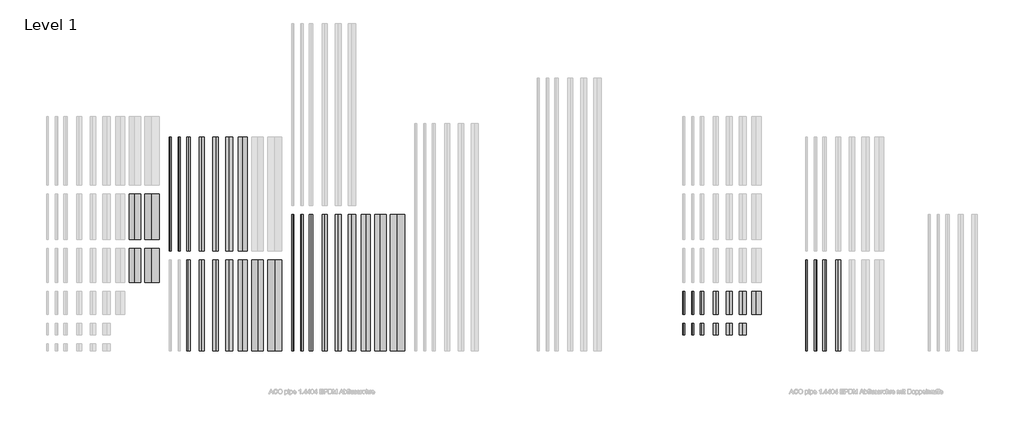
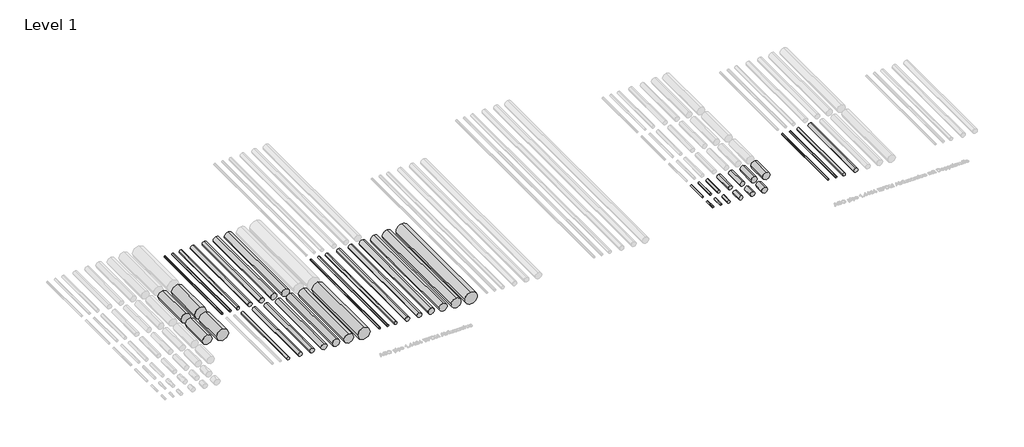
# One storey, part 2 of 13: 44 pipe segments.
"""IFC4 building model written with IfcOpenShell, lengths in millimetres."""

import ifcopenshell
import ifcopenshell.guid

model = None  # the IFC model being written
_history = None  # IfcOwnerHistory: only IFC2X3 demands one
_inside = {}  # id of a spatial element -> (the spatial element, [elements in it])
_under = {}  # id of a project, library or spatial element -> (it, [spatial elements below it])
_declared = {}  # id of a project -> (the project, [libraries it declares])
_typed = {}  # id of a type object -> (the type object, [elements of that type])
_made_of = {}  # id of a material, layer set ... -> (it, [elements and type objects made of it])


def new_model(schema):
    """Start an empty IFC model of exactly this schema.

    Asked for "IFC4X3", IfcOpenShell would pick the latest addendum, in which some entities
    have other attributes; the version numbers below select the first issue.
    IFC2X3 requires an IfcOwnerHistory on every rooted entity: one is made here for all.
    """
    global model, _history
    if schema == "IFC4X3":
        model = ifcopenshell.file(schema_version=(4, 3, 0, 0))
    else:
        model = ifcopenshell.file(schema=schema)
    _inside.clear()
    _under.clear()
    _declared.clear()
    _typed.clear()
    _made_of.clear()
    _history = None
    if model.schema == "IFC2X3":
        org = make("IfcOrganization", Name="unknown")
        user = make(
            "IfcPersonAndOrganization",
            ThePerson=make("IfcPerson", FamilyName="unknown"),
            TheOrganization=org,
        )
        app = make(
            "IfcApplication",
            ApplicationDeveloper=org,
            Version="unknown",
            ApplicationFullName="unknown",
            ApplicationIdentifier="unknown",
        )
        _history = make(
            "IfcOwnerHistory",
            OwningUser=user,
            OwningApplication=app,
            ChangeAction="ADDED",
            CreationDate=0,
        )
    return model


def make(cls, **values):
    """One entity of the class cls with the attributes given. An attribute that is None is left unset."""
    return model.create_entity(
        cls, **{name: value for name, value in values.items() if value is not None}
    )


def rooted(cls, **values):
    """An entity with a GlobalId (a new one), such as an element, a storey or a relation."""
    return make(cls, GlobalId=ifcopenshell.guid.new(), OwnerHistory=_history, **values)


def si_unit(unit_type, name, prefix=None):
    """IfcSIUnit, for example si_unit("LENGTHUNIT", "METRE", prefix="MILLI")."""
    return make("IfcSIUnit", UnitType=unit_type, Prefix=prefix, Name=name)


def assignment(units):
    """IfcUnitAssignment: the units of a project."""
    return None if units is None else make("IfcUnitAssignment", Units=units)


def point(xyz):
    """IfcCartesianPoint."""
    return None if xyz is None else make("IfcCartesianPoint", Coordinates=xyz)


def direction(xyz):
    """IfcDirection."""
    return None if xyz is None else make("IfcDirection", DirectionRatios=xyz)


def frame(location, z_axis=None, x_axis=None):
    """IfcAxis2Placement3D, a coordinate frame: its origin and axes. An axis left out is left unset."""
    return make(
        "IfcAxis2Placement3D",
        Location=point(location),
        Axis=direction(z_axis),
        RefDirection=direction(x_axis),
    )


def frame_2d(location, x_axis=None):
    """IfcAxis2Placement2D, a coordinate frame in the plane: its origin and x axis."""
    return make(
        "IfcAxis2Placement2D", Location=point(location), RefDirection=direction(x_axis)
    )


def origin():
    """The frame at (0, 0, 0) with its axes left unset."""
    return frame((0.0, 0.0, 0.0))


def place(relative_to, where):
    """IfcLocalPlacement: puts the frame where relative to a parent placement (None: the world)."""
    return make(
        "IfcLocalPlacement", PlacementRelTo=relative_to, RelativePlacement=where
    )


def context(
    kind, dimensions, precision=None, world=None, true_north=None, identifier=None
):
    """IfcGeometricRepresentationContext, for example the 3D "Model" context."""
    return make(
        "IfcGeometricRepresentationContext",
        ContextIdentifier=identifier,
        ContextType=kind,
        CoordinateSpaceDimension=dimensions,
        Precision=precision,
        WorldCoordinateSystem=world,
        TrueNorth=true_north,
    )


def project(units=None, contexts=None):
    """IfcProject with its units and contexts."""
    return rooted(
        "IfcProject",
        Name="project",
        RepresentationContexts=contexts,
        UnitsInContext=assignment(units),
    )


def spatial(cls, under=None, at=None, **own):
    """A site, building, storey or space (cls), placed at a placement, below another one or the project."""
    s = rooted(cls, ObjectPlacement=at, **own)
    if under is not None:
        _under.setdefault(under.id(), (under, []))[1].append(s)
    return s


def circle_curve(where, radius):
    """IfcCircle in the frame where."""
    return make("IfcCircle", Position=where, Radius=radius)


def trimmed(basis, trim1, trim2, sense, master):
    """IfcTrimmedCurve: the piece of a basis curve between two trims."""
    return make(
        "IfcTrimmedCurve",
        BasisCurve=basis,
        Trim1=trim1,
        Trim2=trim2,
        SenseAgreement=sense,
        MasterRepresentation=master,
    )


def segment(curve, same_sense, transition):
    """IfcCompositeCurveSegment."""
    return make(
        "IfcCompositeCurveSegment",
        Transition=transition,
        SameSense=same_sense,
        ParentCurve=curve,
    )


def composite_curve(segments, self_intersect=None):
    """IfcCompositeCurve: segments joined end to end."""
    return make("IfcCompositeCurve", Segments=segments, SelfIntersect=self_intersect)


def outline(outer, holes=None, kind="AREA"):
    """IfcArbitraryClosedProfileDef: a profile drawn as a closed curve; with holes, ...WithVoids."""
    if holes is None:
        return make("IfcArbitraryClosedProfileDef", ProfileType=kind, OuterCurve=outer)
    return make(
        "IfcArbitraryProfileDefWithVoids",
        ProfileType=kind,
        OuterCurve=outer,
        InnerCurves=holes,
    )


def extrude(swept, where, along, depth):
    """IfcExtrudedAreaSolid: the profile swept, set in the frame where, extruded along a direction by depth."""
    return make(
        "IfcExtrudedAreaSolid",
        SweptArea=swept,
        Position=where,
        ExtrudedDirection=direction(along),
        Depth=depth,
    )


def shape(context_of_items, identifier, shape_type, items):
    """IfcShapeRepresentation: the items that make up one representation, for example the "Body"."""
    return make(
        "IfcShapeRepresentation",
        ContextOfItems=context_of_items,
        RepresentationIdentifier=identifier,
        RepresentationType=shape_type,
        Items=items,
    )


def made_of(thing, what):
    """Note that an element or type object is made of a material, layer set ...; save() writes the relation."""
    if what is not None:
        _made_of.setdefault(what.id(), (what, []))[1].append(thing)
    return thing


def element(
    cls,
    number,
    at=None,
    inside=None,
    cuts=None,
    type_object=None,
    material=None,
    context=None,
    identifier="Body",
    shape_type=None,
    held_by="IfcProductDefinitionShape",
    body=None,
    shapes=None,
    **own,
):
    """One element of the class cls, such as IfcWall. Its Tag is "e" and its number.

    at: its placement. inside: the storey or other place that contains it. cuts: it is an
    opening in that element (IfcRelVoidsElement). A single representation is given by context,
    identifier, shape_type and body (its items); several are given by shapes. held_by: the class
    of the entity that holds the representations. save() writes the other relations.
    """
    e = rooted(cls, Tag="e%d" % number, ObjectPlacement=at, **own)
    if body is not None:
        shapes = [shape(context, identifier, shape_type, body)]
    if shapes is not None:
        e.Representation = make(held_by, Representations=shapes)
    if inside is not None:
        _inside.setdefault(inside.id(), (inside, []))[1].append(e)
    if cuts is not None:
        rooted(
            "IfcRelVoidsElement", RelatingBuildingElement=cuts, RelatedOpeningElement=e
        )
    if type_object is not None:
        _typed.setdefault(type_object.id(), (type_object, []))[1].append(e)
    return made_of(e, material)


def aggregate(whole, parts):
    """IfcRelAggregates: a whole, such as a stair, and the parts it consists of."""
    return rooted("IfcRelAggregates", RelatingObject=whole, RelatedObjects=parts)


def save(model, path):
    """Write the relations noted so far, then the file.

    IfcRelAggregates (storeys below a building ...), IfcRelContainedInSpatialStructure (elements
    in a storey), IfcRelDefinesByType, IfcRelAssociatesMaterial and IfcRelDeclares: one each for
    every whole, place, type object, material and project.
    """
    for whole, parts in _under.values():
        aggregate(whole, parts)
    for where, things in _inside.values():
        rooted(
            "IfcRelContainedInSpatialStructure",
            RelatedElements=things,
            RelatingStructure=where,
        )
    for kind, things in _typed.values():
        rooted("IfcRelDefinesByType", RelatedObjects=things, RelatingType=kind)
    for what, things in _made_of.values():
        rooted("IfcRelAssociatesMaterial", RelatedObjects=things, RelatingMaterial=what)
    for by, libraries in _declared.values():
        rooted("IfcRelDeclares", RelatingContext=by, RelatedDefinitions=libraries)
    model.write(path)


model = new_model("IFC4")

# Units and contexts
model_context = context("Model", 3, world=origin())
ifc_project = project(units=[si_unit("LENGTHUNIT", "METRE", prefix="MILLI")], contexts=[model_context])

# Site, building, storey
site = spatial("IfcSite", under=ifc_project)
building = spatial("IfcBuilding", under=site)
storey = spatial("IfcBuildingStorey", under=building, Name="Level 1", Elevation=0.0)

# Pipe segments
placement = place(None, origin())
element("IfcPipeSegment", 1, ObjectType="ACO pipe 1.4404 OD (complex)", at=placement, inside=storey, context=model_context, shape_type="SweptSolid", body=[
    extrude(outline(composite_curve([segment(trimmed(circle_curve(frame_2d((0.0, 1421.7461061)), 37.5), [point((0.0, 1459.2461061))], [point((37.5, 1421.7461061))], False, "CARTESIAN"), True, "CONTINUOUS"), segment(trimmed(circle_curve(frame_2d((0.0, 1421.7461061)), 37.5), [point((37.5, 1421.7461061))], [point((0.0, 1384.2461061))], False, "CARTESIAN"), True, "CONTINUOUS"), segment(trimmed(circle_curve(frame_2d((0.0, 1421.7461061)), 37.5), [point((0.0, 1384.2461061))], [point((-37.5, 1421.7461061))], False, "CARTESIAN"), True, "CONTINUOUS"), segment(trimmed(circle_curve(frame_2d((0.0, 1421.7461061)), 37.5), [point((-37.5, 1421.7461061))], [point((0.0, 1459.2461061))], False, "CARTESIAN"), True, "CONTINUOUS")], self_intersect=False)), frame((0.0, -9769.2114353, 0.0), z_axis=(0.0, 1.0, 0.0), x_axis=(0.0, 0.0, 1.0)), (0.0, 0.0, 1.0), 2000.0),
])
element("IfcPipeSegment", 2, ObjectType="ACO pipe 1.4404 OD (complex)", at=placement, inside=storey, context=model_context, shape_type="SweptSolid", body=[
    extrude(outline(composite_curve([segment(trimmed(circle_curve(frame_2d((0.0, 1721.7461061)), 55.0), [point((0.0, 1776.7461061))], [point((55.0, 1721.7461061))], False, "CARTESIAN"), True, "CONTINUOUS"), segment(trimmed(circle_curve(frame_2d((0.0, 1721.7461061)), 55.0), [point((55.0, 1721.7461061))], [point((0.0, 1666.7461061))], False, "CARTESIAN"), True, "CONTINUOUS"), segment(trimmed(circle_curve(frame_2d((0.0, 1721.7461061)), 55.0), [point((0.0, 1666.7461061))], [point((-55.0, 1721.7461061))], False, "CARTESIAN"), True, "CONTINUOUS"), segment(trimmed(circle_curve(frame_2d((0.0, 1721.7461061)), 55.0), [point((-55.0, 1721.7461061))], [point((0.0, 1776.7461061))], False, "CARTESIAN"), True, "CONTINUOUS")], self_intersect=False)), frame((0.0, -9769.2114353, 0.0), z_axis=(0.0, 1.0, 0.0), x_axis=(0.0, 0.0, 1.0)), (0.0, 0.0, 1.0), 2000.0),
])
element("IfcPipeSegment", 3, ObjectType="ACO pipe 1.4404 OD (complex)", at=placement, inside=storey, context=model_context, shape_type="SweptSolid", body=[
    extrude(outline(composite_curve([segment(trimmed(circle_curve(frame_2d((0.0, 2021.7461061)), 62.5), [point((0.0, 2084.2461061))], [point((62.5, 2021.7461061))], False, "CARTESIAN"), True, "CONTINUOUS"), segment(trimmed(circle_curve(frame_2d((0.0, 2021.7461061)), 62.5), [point((62.5, 2021.7461061))], [point((0.0, 1959.2461061))], False, "CARTESIAN"), True, "CONTINUOUS"), segment(trimmed(circle_curve(frame_2d((0.0, 2021.7461061)), 62.5), [point((0.0, 1959.2461061))], [point((-62.5, 2021.7461061))], False, "CARTESIAN"), True, "CONTINUOUS"), segment(trimmed(circle_curve(frame_2d((0.0, 2021.7461061)), 62.5), [point((-62.5, 2021.7461061))], [point((0.0, 2084.2461061))], False, "CARTESIAN"), True, "CONTINUOUS")], self_intersect=False)), frame((0.0, -9769.2114353, 0.0), z_axis=(0.0, 1.0, 0.0), x_axis=(0.0, 0.0, 1.0)), (0.0, 0.0, 1.0), 2000.0),
])
element("IfcPipeSegment", 4, ObjectType="ACO pipe 1.4404 OD (complex)", at=placement, inside=storey, context=model_context, shape_type="SweptSolid", body=[
    extrude(outline(composite_curve([segment(trimmed(circle_curve(frame_2d((0.0, 2321.7461061)), 80.0), [point((0.0, 2401.7461061))], [point((80.0, 2321.7461061))], False, "CARTESIAN"), True, "CONTINUOUS"), segment(trimmed(circle_curve(frame_2d((0.0, 2321.7461061)), 80.0), [point((80.0, 2321.7461061))], [point((0.0, 2241.7461061))], False, "CARTESIAN"), True, "CONTINUOUS"), segment(trimmed(circle_curve(frame_2d((0.0, 2321.7461061)), 80.0), [point((0.0, 2241.7461061))], [point((-80.0, 2321.7461061))], False, "CARTESIAN"), True, "CONTINUOUS"), segment(trimmed(circle_curve(frame_2d((0.0, 2321.7461061)), 80.0), [point((-80.0, 2321.7461061))], [point((0.0, 2401.7461061))], False, "CARTESIAN"), True, "CONTINUOUS")], self_intersect=False)), frame((0.0, -9769.2114353, 0.0), z_axis=(0.0, 1.0, 0.0), x_axis=(0.0, 0.0, 1.0)), (0.0, 0.0, 1.0), 2000.0),
])
element("IfcPipeSegment", 5, ObjectType="ACO pipe 1.4404 OD (complex)", at=placement, inside=storey, context=model_context, shape_type="SweptSolid", body=[
    extrude(outline(composite_curve([segment(trimmed(circle_curve(frame_2d((0.0, 2621.7461061)), 100.0), [point((0.0, 2721.7461061))], [point((100.0, 2621.7461061))], False, "CARTESIAN"), True, "CONTINUOUS"), segment(trimmed(circle_curve(frame_2d((0.0, 2621.7461061)), 100.0), [point((100.0, 2621.7461061))], [point((0.0, 2521.7461061))], False, "CARTESIAN"), True, "CONTINUOUS"), segment(trimmed(circle_curve(frame_2d((0.0, 2621.7461061)), 100.0), [point((0.0, 2521.7461061))], [point((-100.0, 2621.7461061))], False, "CARTESIAN"), True, "CONTINUOUS"), segment(trimmed(circle_curve(frame_2d((0.0, 2621.7461061)), 100.0), [point((-100.0, 2621.7461061))], [point((0.0, 2721.7461061))], False, "CARTESIAN"), True, "CONTINUOUS")], self_intersect=False)), frame((0.0, -9769.2114353, 0.0), z_axis=(0.0, 1.0, 0.0), x_axis=(0.0, 0.0, 1.0)), (0.0, 0.0, 1.0), 2000.0),
])
element("IfcPipeSegment", 6, ObjectType="ACO pipe 1.4404 OD (complex)", at=placement, inside=storey, context=model_context, shape_type="SweptSolid", body=[
    extrude(outline(composite_curve([segment(trimmed(circle_curve(frame_2d((0.0, 1021.7461061)), 20.0), [point((0.0, 1041.7461061))], [point((20.0, 1021.7461061))], False, "CARTESIAN"), True, "CONTINUOUS"), segment(trimmed(circle_curve(frame_2d((0.0, 1021.7461061)), 20.0), [point((20.0, 1021.7461061))], [point((0.0, 1001.7461061))], False, "CARTESIAN"), True, "CONTINUOUS"), segment(trimmed(circle_curve(frame_2d((0.0, 1021.7461061)), 20.0), [point((0.0, 1001.7461061))], [point((-20.0, 1021.7461061))], False, "CARTESIAN"), True, "CONTINUOUS"), segment(trimmed(circle_curve(frame_2d((0.0, 1021.7461061)), 20.0), [point((-20.0, 1021.7461061))], [point((0.0, 1041.7461061))], False, "CARTESIAN"), True, "CONTINUOUS")], self_intersect=False)), frame((0.0, -7569.2114353, 0.0), z_axis=(0.0, 1.0, 0.0), x_axis=(0.0, 0.0, 1.0)), (0.0, 0.0, 1.0), 2500.0),
])
element("IfcPipeSegment", 7, ObjectType="ACO pipe 1.4404 OD (complex)", at=placement, inside=storey, context=model_context, shape_type="SweptSolid", body=[
    extrude(outline(composite_curve([segment(trimmed(circle_curve(frame_2d((0.0, 1221.7461061)), 25.0), [point((0.0, 1246.7461061))], [point((25.0, 1221.7461061))], False, "CARTESIAN"), True, "CONTINUOUS"), segment(trimmed(circle_curve(frame_2d((0.0, 1221.7461061)), 25.0), [point((25.0, 1221.7461061))], [point((0.0, 1196.7461061))], False, "CARTESIAN"), True, "CONTINUOUS"), segment(trimmed(circle_curve(frame_2d((0.0, 1221.7461061)), 25.0), [point((0.0, 1196.7461061))], [point((-25.0, 1221.7461061))], False, "CARTESIAN"), True, "CONTINUOUS"), segment(trimmed(circle_curve(frame_2d((0.0, 1221.7461061)), 25.0), [point((-25.0, 1221.7461061))], [point((0.0, 1246.7461061))], False, "CARTESIAN"), True, "CONTINUOUS")], self_intersect=False)), frame((0.0, -7569.2114353, 0.0), z_axis=(0.0, 1.0, 0.0), x_axis=(0.0, 0.0, 1.0)), (0.0, 0.0, 1.0), 2500.0),
])
element("IfcPipeSegment", 8, ObjectType="ACO pipe 1.4404 OD (complex)", at=placement, inside=storey, context=model_context, shape_type="SweptSolid", body=[
    extrude(outline(composite_curve([segment(trimmed(circle_curve(frame_2d((0.0, 1421.7461061)), 37.5), [point((0.0, 1459.2461061))], [point((37.5, 1421.7461061))], False, "CARTESIAN"), True, "CONTINUOUS"), segment(trimmed(circle_curve(frame_2d((0.0, 1421.7461061)), 37.5), [point((37.5, 1421.7461061))], [point((0.0, 1384.2461061))], False, "CARTESIAN"), True, "CONTINUOUS"), segment(trimmed(circle_curve(frame_2d((0.0, 1421.7461061)), 37.5), [point((0.0, 1384.2461061))], [point((-37.5, 1421.7461061))], False, "CARTESIAN"), True, "CONTINUOUS"), segment(trimmed(circle_curve(frame_2d((0.0, 1421.7461061)), 37.5), [point((-37.5, 1421.7461061))], [point((0.0, 1459.2461061))], False, "CARTESIAN"), True, "CONTINUOUS")], self_intersect=False)), frame((0.0, -7569.2114353, 0.0), z_axis=(0.0, 1.0, 0.0), x_axis=(0.0, 0.0, 1.0)), (0.0, 0.0, 1.0), 2500.0),
])
element("IfcPipeSegment", 9, ObjectType="ACO pipe 1.4404 OD (complex)", at=placement, inside=storey, context=model_context, shape_type="SweptSolid", body=[
    extrude(outline(composite_curve([segment(trimmed(circle_curve(frame_2d((0.0, 1721.7461061)), 55.0), [point((0.0, 1776.7461061))], [point((55.0, 1721.7461061))], False, "CARTESIAN"), True, "CONTINUOUS"), segment(trimmed(circle_curve(frame_2d((0.0, 1721.7461061)), 55.0), [point((55.0, 1721.7461061))], [point((0.0, 1666.7461061))], False, "CARTESIAN"), True, "CONTINUOUS"), segment(trimmed(circle_curve(frame_2d((0.0, 1721.7461061)), 55.0), [point((0.0, 1666.7461061))], [point((-55.0, 1721.7461061))], False, "CARTESIAN"), True, "CONTINUOUS"), segment(trimmed(circle_curve(frame_2d((0.0, 1721.7461061)), 55.0), [point((-55.0, 1721.7461061))], [point((0.0, 1776.7461061))], False, "CARTESIAN"), True, "CONTINUOUS")], self_intersect=False)), frame((0.0, -7569.2114353, 0.0), z_axis=(0.0, 1.0, 0.0), x_axis=(0.0, 0.0, 1.0)), (0.0, 0.0, 1.0), 2500.0),
])
element("IfcPipeSegment", 10, ObjectType="ACO pipe 1.4404 OD (complex)", at=placement, inside=storey, context=model_context, shape_type="SweptSolid", body=[
    extrude(outline(composite_curve([segment(trimmed(circle_curve(frame_2d((0.0, 2021.7461061)), 62.5), [point((0.0, 2084.2461061))], [point((62.5, 2021.7461061))], False, "CARTESIAN"), True, "CONTINUOUS"), segment(trimmed(circle_curve(frame_2d((0.0, 2021.7461061)), 62.5), [point((62.5, 2021.7461061))], [point((0.0, 1959.2461061))], False, "CARTESIAN"), True, "CONTINUOUS"), segment(trimmed(circle_curve(frame_2d((0.0, 2021.7461061)), 62.5), [point((0.0, 1959.2461061))], [point((-62.5, 2021.7461061))], False, "CARTESIAN"), True, "CONTINUOUS"), segment(trimmed(circle_curve(frame_2d((0.0, 2021.7461061)), 62.5), [point((-62.5, 2021.7461061))], [point((0.0, 2084.2461061))], False, "CARTESIAN"), True, "CONTINUOUS")], self_intersect=False)), frame((0.0, -7569.2114353, 0.0), z_axis=(0.0, 1.0, 0.0), x_axis=(0.0, 0.0, 1.0)), (0.0, 0.0, 1.0), 2500.0),
])
element("IfcPipeSegment", 11, ObjectType="ACO pipe 1.4404 OD (complex)", at=placement, inside=storey, context=model_context, shape_type="SweptSolid", body=[
    extrude(outline(composite_curve([segment(trimmed(circle_curve(frame_2d((0.0, 2321.7461061)), 80.0), [point((0.0, 2401.7461061))], [point((80.0, 2321.7461061))], False, "CARTESIAN"), True, "CONTINUOUS"), segment(trimmed(circle_curve(frame_2d((0.0, 2321.7461061)), 80.0), [point((80.0, 2321.7461061))], [point((0.0, 2241.7461061))], False, "CARTESIAN"), True, "CONTINUOUS"), segment(trimmed(circle_curve(frame_2d((0.0, 2321.7461061)), 80.0), [point((0.0, 2241.7461061))], [point((-80.0, 2321.7461061))], False, "CARTESIAN"), True, "CONTINUOUS"), segment(trimmed(circle_curve(frame_2d((0.0, 2321.7461061)), 80.0), [point((-80.0, 2321.7461061))], [point((0.0, 2401.7461061))], False, "CARTESIAN"), True, "CONTINUOUS")], self_intersect=False)), frame((0.0, -7569.2114353, 0.0), z_axis=(0.0, 1.0, 0.0), x_axis=(0.0, 0.0, 1.0)), (0.0, 0.0, 1.0), 2500.0),
])
element("IfcPipeSegment", 12, ObjectType="ACO pipe 1.4404 OD (complex)", at=placement, inside=storey, context=model_context, shape_type="SweptSolid", body=[
    extrude(outline(composite_curve([segment(trimmed(circle_curve(frame_2d((0.0, 2621.7461061)), 100.0), [point((0.0, 2721.7461061))], [point((100.0, 2621.7461061))], False, "CARTESIAN"), True, "CONTINUOUS"), segment(trimmed(circle_curve(frame_2d((0.0, 2621.7461061)), 100.0), [point((100.0, 2621.7461061))], [point((0.0, 2521.7461061))], False, "CARTESIAN"), True, "CONTINUOUS"), segment(trimmed(circle_curve(frame_2d((0.0, 2621.7461061)), 100.0), [point((0.0, 2521.7461061))], [point((-100.0, 2621.7461061))], False, "CARTESIAN"), True, "CONTINUOUS"), segment(trimmed(circle_curve(frame_2d((0.0, 2621.7461061)), 100.0), [point((-100.0, 2621.7461061))], [point((0.0, 2721.7461061))], False, "CARTESIAN"), True, "CONTINUOUS")], self_intersect=False)), frame((0.0, -7569.2114353, 0.0), z_axis=(0.0, 1.0, 0.0), x_axis=(0.0, 0.0, 1.0)), (0.0, 0.0, 1.0), 2500.0),
])
element("IfcPipeSegment", 13, ObjectType="ACO pipe 1.4404 OD (complex)", at=placement, inside=storey, context=model_context, shape_type="SweptSolid", body=[
    extrude(outline(composite_curve([segment(trimmed(circle_curve(frame_2d((0.0, 3721.7461061)), 20.0), [point((0.0, 3741.7461061))], [point((20.0, 3721.7461061))], False, "CARTESIAN"), True, "CONTINUOUS"), segment(trimmed(circle_curve(frame_2d((0.0, 3721.7461061)), 20.0), [point((20.0, 3721.7461061))], [point((0.0, 3701.7461061))], False, "CARTESIAN"), True, "CONTINUOUS"), segment(trimmed(circle_curve(frame_2d((0.0, 3721.7461061)), 20.0), [point((0.0, 3701.7461061))], [point((-20.0, 3721.7461061))], False, "CARTESIAN"), True, "CONTINUOUS"), segment(trimmed(circle_curve(frame_2d((0.0, 3721.7461061)), 20.0), [point((-20.0, 3721.7461061))], [point((0.0, 3741.7461061))], False, "CARTESIAN"), True, "CONTINUOUS")], self_intersect=False)), frame((0.0, -9769.2114353, 0.0), z_axis=(0.0, 1.0, 0.0), x_axis=(0.0, 0.0, 1.0)), (0.0, 0.0, 1.0), 3000.0),
])
element("IfcPipeSegment", 14, ObjectType="ACO pipe 1.4404 OD (complex)", at=placement, inside=storey, context=model_context, shape_type="SweptSolid", body=[
    extrude(outline(composite_curve([segment(trimmed(circle_curve(frame_2d((0.0, 3921.7461061)), 25.0), [point((0.0, 3946.7461061))], [point((25.0, 3921.7461061))], False, "CARTESIAN"), True, "CONTINUOUS"), segment(trimmed(circle_curve(frame_2d((0.0, 3921.7461061)), 25.0), [point((25.0, 3921.7461061))], [point((0.0, 3896.7461061))], False, "CARTESIAN"), True, "CONTINUOUS"), segment(trimmed(circle_curve(frame_2d((0.0, 3921.7461061)), 25.0), [point((0.0, 3896.7461061))], [point((-25.0, 3921.7461061))], False, "CARTESIAN"), True, "CONTINUOUS"), segment(trimmed(circle_curve(frame_2d((0.0, 3921.7461061)), 25.0), [point((-25.0, 3921.7461061))], [point((0.0, 3946.7461061))], False, "CARTESIAN"), True, "CONTINUOUS")], self_intersect=False)), frame((0.0, -9769.2114353, 0.0), z_axis=(0.0, 1.0, 0.0), x_axis=(0.0, 0.0, 1.0)), (0.0, 0.0, 1.0), 3000.0),
])
element("IfcPipeSegment", 15, ObjectType="ACO pipe 1.4404 OD (complex)", at=placement, inside=storey, context=model_context, shape_type="SweptSolid", body=[
    extrude(outline(composite_curve([segment(trimmed(circle_curve(frame_2d((0.0, 4121.7461061)), 37.5), [point((0.0, 4159.2461061))], [point((37.5, 4121.7461061))], False, "CARTESIAN"), True, "CONTINUOUS"), segment(trimmed(circle_curve(frame_2d((0.0, 4121.7461061)), 37.5), [point((37.5, 4121.7461061))], [point((0.0, 4084.2461061))], False, "CARTESIAN"), True, "CONTINUOUS"), segment(trimmed(circle_curve(frame_2d((0.0, 4121.7461061)), 37.5), [point((0.0, 4084.2461061))], [point((-37.5, 4121.7461061))], False, "CARTESIAN"), True, "CONTINUOUS"), segment(trimmed(circle_curve(frame_2d((0.0, 4121.7461061)), 37.5), [point((-37.5, 4121.7461061))], [point((0.0, 4159.2461061))], False, "CARTESIAN"), True, "CONTINUOUS")], self_intersect=False)), frame((0.0, -9769.2114353, 0.0), z_axis=(0.0, 1.0, 0.0), x_axis=(0.0, 0.0, 1.0)), (0.0, 0.0, 1.0), 3000.0),
])
element("IfcPipeSegment", 16, ObjectType="ACO pipe 1.4404 OD (complex)", at=placement, inside=storey, context=model_context, shape_type="SweptSolid", body=[
    extrude(outline(composite_curve([segment(trimmed(circle_curve(frame_2d((0.0, 4421.7461061)), 55.0), [point((0.0, 4476.7461061))], [point((55.0, 4421.7461061))], False, "CARTESIAN"), True, "CONTINUOUS"), segment(trimmed(circle_curve(frame_2d((0.0, 4421.7461061)), 55.0), [point((55.0, 4421.7461061))], [point((0.0, 4366.7461061))], False, "CARTESIAN"), True, "CONTINUOUS"), segment(trimmed(circle_curve(frame_2d((0.0, 4421.7461061)), 55.0), [point((0.0, 4366.7461061))], [point((-55.0, 4421.7461061))], False, "CARTESIAN"), True, "CONTINUOUS"), segment(trimmed(circle_curve(frame_2d((0.0, 4421.7461061)), 55.0), [point((-55.0, 4421.7461061))], [point((0.0, 4476.7461061))], False, "CARTESIAN"), True, "CONTINUOUS")], self_intersect=False)), frame((0.0, -9769.2114353, 0.0), z_axis=(0.0, 1.0, 0.0), x_axis=(0.0, 0.0, 1.0)), (0.0, 0.0, 1.0), 3000.0),
])
element("IfcPipeSegment", 17, ObjectType="ACO pipe 1.4404 OD (complex)", at=placement, inside=storey, context=model_context, shape_type="SweptSolid", body=[
    extrude(outline(composite_curve([segment(trimmed(circle_curve(frame_2d((0.0, 4721.7461061)), 62.5), [point((0.0, 4784.2461061))], [point((62.5, 4721.7461061))], False, "CARTESIAN"), True, "CONTINUOUS"), segment(trimmed(circle_curve(frame_2d((0.0, 4721.7461061)), 62.5), [point((62.5, 4721.7461061))], [point((0.0, 4659.2461061))], False, "CARTESIAN"), True, "CONTINUOUS"), segment(trimmed(circle_curve(frame_2d((0.0, 4721.7461061)), 62.5), [point((0.0, 4659.2461061))], [point((-62.5, 4721.7461061))], False, "CARTESIAN"), True, "CONTINUOUS"), segment(trimmed(circle_curve(frame_2d((0.0, 4721.7461061)), 62.5), [point((-62.5, 4721.7461061))], [point((0.0, 4784.2461061))], False, "CARTESIAN"), True, "CONTINUOUS")], self_intersect=False)), frame((0.0, -9769.2114353, 0.0), z_axis=(0.0, 1.0, 0.0), x_axis=(0.0, 0.0, 1.0)), (0.0, 0.0, 1.0), 3000.0),
])
element("IfcPipeSegment", 18, ObjectType="ACO pipe 1.4404 OD (complex)", at=placement, inside=storey, context=model_context, shape_type="SweptSolid", body=[
    extrude(outline(composite_curve([segment(trimmed(circle_curve(frame_2d((0.0, 5021.7461061)), 80.0), [point((0.0, 5101.7461061))], [point((80.0, 5021.7461061))], False, "CARTESIAN"), True, "CONTINUOUS"), segment(trimmed(circle_curve(frame_2d((0.0, 5021.7461061)), 80.0), [point((80.0, 5021.7461061))], [point((0.0, 4941.7461061))], False, "CARTESIAN"), True, "CONTINUOUS"), segment(trimmed(circle_curve(frame_2d((0.0, 5021.7461061)), 80.0), [point((0.0, 4941.7461061))], [point((-80.0, 5021.7461061))], False, "CARTESIAN"), True, "CONTINUOUS"), segment(trimmed(circle_curve(frame_2d((0.0, 5021.7461061)), 80.0), [point((-80.0, 5021.7461061))], [point((0.0, 5101.7461061))], False, "CARTESIAN"), True, "CONTINUOUS")], self_intersect=False)), frame((0.0, -9769.2114353, 0.0), z_axis=(0.0, 1.0, 0.0), x_axis=(0.0, 0.0, 1.0)), (0.0, 0.0, 1.0), 3000.0),
])
element("IfcPipeSegment", 19, ObjectType="ACO pipe 1.4404 OD (complex)", at=placement, inside=storey, context=model_context, shape_type="SweptSolid", body=[
    extrude(outline(composite_curve([segment(trimmed(circle_curve(frame_2d((0.0, 5321.7461061)), 100.0), [point((0.0, 5421.7461061))], [point((100.0, 5321.7461061))], False, "CARTESIAN"), True, "CONTINUOUS"), segment(trimmed(circle_curve(frame_2d((0.0, 5321.7461061)), 100.0), [point((100.0, 5321.7461061))], [point((0.0, 5221.7461061))], False, "CARTESIAN"), True, "CONTINUOUS"), segment(trimmed(circle_curve(frame_2d((0.0, 5321.7461061)), 100.0), [point((0.0, 5221.7461061))], [point((-100.0, 5321.7461061))], False, "CARTESIAN"), True, "CONTINUOUS"), segment(trimmed(circle_curve(frame_2d((0.0, 5321.7461061)), 100.0), [point((-100.0, 5321.7461061))], [point((0.0, 5421.7461061))], False, "CARTESIAN"), True, "CONTINUOUS")], self_intersect=False)), frame((0.0, -9769.2114353, 0.0), z_axis=(0.0, 1.0, 0.0), x_axis=(0.0, 0.0, 1.0)), (0.0, 0.0, 1.0), 3000.0),
])
element("IfcPipeSegment", 20, ObjectType="ACO pipe 1.4404 OD (complex)", at=placement, inside=storey, context=model_context, shape_type="SweptSolid", body=[
    extrude(outline(composite_curve([segment(trimmed(circle_curve(frame_2d((0.0, 246.7461061)), 125.0), [point((0.0, 371.7461061))], [point((125.0, 246.7461061))], False, "CARTESIAN"), True, "CONTINUOUS"), segment(trimmed(circle_curve(frame_2d((0.0, 246.7461061)), 125.0), [point((125.0, 246.7461061))], [point((0.0, 121.7461061))], False, "CARTESIAN"), True, "CONTINUOUS"), segment(trimmed(circle_curve(frame_2d((0.0, 246.7461061)), 125.0), [point((0.0, 121.7461061))], [point((-125.0, 246.7461061))], False, "CARTESIAN"), True, "CONTINUOUS"), segment(trimmed(circle_curve(frame_2d((0.0, 246.7461061)), 125.0), [point((-125.0, 246.7461061))], [point((0.0, 371.7461061))], False, "CARTESIAN"), True, "CONTINUOUS")], self_intersect=False)), frame((0.0, -7319.2114353, 0.0), z_axis=(0.0, 1.0, 0.0), x_axis=(0.0, 0.0, 1.0)), (0.0, 0.0, 1.0), 1000.0),
])
element("IfcPipeSegment", 21, ObjectType="ACO pipe 1.4404 OD (complex)", at=placement, inside=storey, context=model_context, shape_type="SweptSolid", body=[
    extrude(outline(composite_curve([segment(trimmed(circle_curve(frame_2d((0.0, 621.7461061)), 157.5), [point((0.0, 779.2461061))], [point((157.5, 621.7461061))], False, "CARTESIAN"), True, "CONTINUOUS"), segment(trimmed(circle_curve(frame_2d((0.0, 621.7461061)), 157.5), [point((157.5, 621.7461061))], [point((0.0, 464.2461061))], False, "CARTESIAN"), True, "CONTINUOUS"), segment(trimmed(circle_curve(frame_2d((0.0, 621.7461061)), 157.5), [point((0.0, 464.2461061))], [point((-157.5, 621.7461061))], False, "CARTESIAN"), True, "CONTINUOUS"), segment(trimmed(circle_curve(frame_2d((0.0, 621.7461061)), 157.5), [point((-157.5, 621.7461061))], [point((0.0, 779.2461061))], False, "CARTESIAN"), True, "CONTINUOUS")], self_intersect=False)), frame((0.0, -7319.2114353, 0.0), z_axis=(0.0, 1.0, 0.0), x_axis=(0.0, 0.0, 1.0)), (0.0, 0.0, 1.0), 1000.0),
])
element("IfcPipeSegment", 22, ObjectType="ACO pipe 1.4404 OD (complex)", at=placement, inside=storey, context=model_context, shape_type="SweptSolid", body=[
    extrude(outline(composite_curve([segment(trimmed(circle_curve(frame_2d((0.0, 2946.7461061)), 125.0), [point((0.0, 3071.7461061))], [point((125.0, 2946.7461061))], False, "CARTESIAN"), True, "CONTINUOUS"), segment(trimmed(circle_curve(frame_2d((0.0, 2946.7461061)), 125.0), [point((125.0, 2946.7461061))], [point((0.0, 2821.7461061))], False, "CARTESIAN"), True, "CONTINUOUS"), segment(trimmed(circle_curve(frame_2d((0.0, 2946.7461061)), 125.0), [point((0.0, 2821.7461061))], [point((-125.0, 2946.7461061))], False, "CARTESIAN"), True, "CONTINUOUS"), segment(trimmed(circle_curve(frame_2d((0.0, 2946.7461061)), 125.0), [point((-125.0, 2946.7461061))], [point((0.0, 3071.7461061))], False, "CARTESIAN"), True, "CONTINUOUS")], self_intersect=False)), frame((0.0, -9769.2114353, 0.0), z_axis=(0.0, 1.0, 0.0), x_axis=(0.0, 0.0, 1.0)), (0.0, 0.0, 1.0), 2000.0),
])
element("IfcPipeSegment", 23, ObjectType="ACO pipe 1.4404 OD (complex)", at=placement, inside=storey, context=model_context, shape_type="SweptSolid", body=[
    extrude(outline(composite_curve([segment(trimmed(circle_curve(frame_2d((0.0, 3321.7461061)), 157.5), [point((0.0, 3479.2461061))], [point((157.5, 3321.7461061))], False, "CARTESIAN"), True, "CONTINUOUS"), segment(trimmed(circle_curve(frame_2d((0.0, 3321.7461061)), 157.5), [point((157.5, 3321.7461061))], [point((0.0, 3164.2461061))], False, "CARTESIAN"), True, "CONTINUOUS"), segment(trimmed(circle_curve(frame_2d((0.0, 3321.7461061)), 157.5), [point((0.0, 3164.2461061))], [point((-157.5, 3321.7461061))], False, "CARTESIAN"), True, "CONTINUOUS"), segment(trimmed(circle_curve(frame_2d((0.0, 3321.7461061)), 157.5), [point((-157.5, 3321.7461061))], [point((0.0, 3479.2461061))], False, "CARTESIAN"), True, "CONTINUOUS")], self_intersect=False)), frame((0.0, -9769.2114353, 0.0), z_axis=(0.0, 1.0, 0.0), x_axis=(0.0, 0.0, 1.0)), (0.0, 0.0, 1.0), 2000.0),
])
element("IfcPipeSegment", 24, ObjectType="ACO pipe 1.4404 OD (complex)", at=placement, inside=storey, context=model_context, shape_type="SweptSolid", body=[
    extrude(outline(composite_curve([segment(trimmed(circle_curve(frame_2d((0.0, 5646.7461061)), 125.0), [point((0.0, 5771.7461061))], [point((125.0, 5646.7461061))], False, "CARTESIAN"), True, "CONTINUOUS"), segment(trimmed(circle_curve(frame_2d((0.0, 5646.7461061)), 125.0), [point((125.0, 5646.7461061))], [point((0.0, 5521.7461061))], False, "CARTESIAN"), True, "CONTINUOUS"), segment(trimmed(circle_curve(frame_2d((0.0, 5646.7461061)), 125.0), [point((0.0, 5521.7461061))], [point((-125.0, 5646.7461061))], False, "CARTESIAN"), True, "CONTINUOUS"), segment(trimmed(circle_curve(frame_2d((0.0, 5646.7461061)), 125.0), [point((-125.0, 5646.7461061))], [point((0.0, 5771.7461061))], False, "CARTESIAN"), True, "CONTINUOUS")], self_intersect=False)), frame((0.0, -9769.2114353, 0.0), z_axis=(0.0, 1.0, 0.0), x_axis=(0.0, 0.0, 1.0)), (0.0, 0.0, 1.0), 3000.0),
])
element("IfcPipeSegment", 25, ObjectType="ACO pipe 1.4404 OD (complex)", at=placement, inside=storey, context=model_context, shape_type="SweptSolid", body=[
    extrude(outline(composite_curve([segment(trimmed(circle_curve(frame_2d((0.0, 6021.7461061)), 157.5), [point((0.0, 6179.2461061))], [point((157.5, 6021.7461061))], False, "CARTESIAN"), True, "CONTINUOUS"), segment(trimmed(circle_curve(frame_2d((0.0, 6021.7461061)), 157.5), [point((157.5, 6021.7461061))], [point((0.0, 5864.2461061))], False, "CARTESIAN"), True, "CONTINUOUS"), segment(trimmed(circle_curve(frame_2d((0.0, 6021.7461061)), 157.5), [point((0.0, 5864.2461061))], [point((-157.5, 6021.7461061))], False, "CARTESIAN"), True, "CONTINUOUS"), segment(trimmed(circle_curve(frame_2d((0.0, 6021.7461061)), 157.5), [point((-157.5, 6021.7461061))], [point((0.0, 6179.2461061))], False, "CARTESIAN"), True, "CONTINUOUS")], self_intersect=False)), frame((0.0, -9769.2114353, 0.0), z_axis=(0.0, 1.0, 0.0), x_axis=(0.0, 0.0, 1.0)), (0.0, 0.0, 1.0), 3000.0),
])
element("IfcPipeSegment", 26, ObjectType="ACO pipe 1.4404 OD (complex)", at=placement, inside=storey, context=model_context, shape_type="SweptSolid", body=[
    extrude(outline(composite_curve([segment(trimmed(circle_curve(frame_2d((0.0, 246.7461061)), 125.0), [point((0.0, 371.7461061))], [point((125.0, 246.7461061))], False, "CARTESIAN"), True, "CONTINUOUS"), segment(trimmed(circle_curve(frame_2d((0.0, 246.7461061)), 125.0), [point((125.0, 246.7461061))], [point((0.0, 121.7461061))], False, "CARTESIAN"), True, "CONTINUOUS"), segment(trimmed(circle_curve(frame_2d((0.0, 246.7461061)), 125.0), [point((0.0, 121.7461061))], [point((-125.0, 246.7461061))], False, "CARTESIAN"), True, "CONTINUOUS"), segment(trimmed(circle_curve(frame_2d((0.0, 246.7461061)), 125.0), [point((-125.0, 246.7461061))], [point((0.0, 371.7461061))], False, "CARTESIAN"), True, "CONTINUOUS")], self_intersect=False)), frame((0.0, -8269.2114353, 0.0), z_axis=(0.0, 1.0, 0.0), x_axis=(0.0, 0.0, 1.0)), (0.0, 0.0, 1.0), 750.0),
])
element("IfcPipeSegment", 27, ObjectType="ACO pipe 1.4404 OD (complex)", at=placement, inside=storey, context=model_context, shape_type="SweptSolid", body=[
    extrude(outline(composite_curve([segment(trimmed(circle_curve(frame_2d((0.0, 621.7461061)), 157.5), [point((0.0, 779.2461061))], [point((157.5, 621.7461061))], False, "CARTESIAN"), True, "CONTINUOUS"), segment(trimmed(circle_curve(frame_2d((0.0, 621.7461061)), 157.5), [point((157.5, 621.7461061))], [point((0.0, 464.2461061))], False, "CARTESIAN"), True, "CONTINUOUS"), segment(trimmed(circle_curve(frame_2d((0.0, 621.7461061)), 157.5), [point((0.0, 464.2461061))], [point((-157.5, 621.7461061))], False, "CARTESIAN"), True, "CONTINUOUS"), segment(trimmed(circle_curve(frame_2d((0.0, 621.7461061)), 157.5), [point((-157.5, 621.7461061))], [point((0.0, 779.2461061))], False, "CARTESIAN"), True, "CONTINUOUS")], self_intersect=False)), frame((0.0, -8269.2114353, 0.0), z_axis=(0.0, 1.0, 0.0), x_axis=(0.0, 0.0, 1.0)), (0.0, 0.0, 1.0), 750.0),
])
element("IfcPipeSegment", 28, ObjectType="ACO pipe 1.4404 OD (complex)", at=placement, inside=storey, context=model_context, shape_type="SweptSolid", body=[
    extrude(outline(composite_curve([segment(trimmed(circle_curve(frame_2d((0.0, 12321.7461061)), 20.0), [point((0.0, 12341.7461061))], [point((20.0, 12321.7461061))], False, "CARTESIAN"), True, "CONTINUOUS"), segment(trimmed(circle_curve(frame_2d((0.0, 12321.7461061)), 20.0), [point((20.0, 12321.7461061))], [point((0.0, 12301.7461061))], False, "CARTESIAN"), True, "CONTINUOUS"), segment(trimmed(circle_curve(frame_2d((0.0, 12321.7461061)), 20.0), [point((0.0, 12301.7461061))], [point((-20.0, 12321.7461061))], False, "CARTESIAN"), True, "CONTINUOUS"), segment(trimmed(circle_curve(frame_2d((0.0, 12321.7461061)), 20.0), [point((-20.0, 12321.7461061))], [point((0.0, 12341.7461061))], False, "CARTESIAN"), True, "CONTINUOUS")], self_intersect=False)), frame((0.0, -9419.2114353, 0.0), z_axis=(0.0, 1.0, 0.0), x_axis=(0.0, 0.0, 1.0)), (0.0, 0.0, 1.0), 250.0),
])
element("IfcPipeSegment", 29, ObjectType="ACO pipe 1.4404 OD (complex)", at=placement, inside=storey, context=model_context, shape_type="SweptSolid", body=[
    extrude(outline(composite_curve([segment(trimmed(circle_curve(frame_2d((0.0, 12521.7461061)), 25.0), [point((0.0, 12546.7461061))], [point((25.0, 12521.7461061))], False, "CARTESIAN"), True, "CONTINUOUS"), segment(trimmed(circle_curve(frame_2d((0.0, 12521.7461061)), 25.0), [point((25.0, 12521.7461061))], [point((0.0, 12496.7461061))], False, "CARTESIAN"), True, "CONTINUOUS"), segment(trimmed(circle_curve(frame_2d((0.0, 12521.7461061)), 25.0), [point((0.0, 12496.7461061))], [point((-25.0, 12521.7461061))], False, "CARTESIAN"), True, "CONTINUOUS"), segment(trimmed(circle_curve(frame_2d((0.0, 12521.7461061)), 25.0), [point((-25.0, 12521.7461061))], [point((0.0, 12546.7461061))], False, "CARTESIAN"), True, "CONTINUOUS")], self_intersect=False)), frame((0.0, -9419.2114353, 0.0), z_axis=(0.0, 1.0, 0.0), x_axis=(0.0, 0.0, 1.0)), (0.0, 0.0, 1.0), 250.0),
])
element("IfcPipeSegment", 30, ObjectType="ACO pipe 1.4404 OD (complex)", at=placement, inside=storey, context=model_context, shape_type="SweptSolid", body=[
    extrude(outline(composite_curve([segment(trimmed(circle_curve(frame_2d((0.0, 12721.7461061)), 37.5), [point((0.0, 12759.2461061))], [point((37.5, 12721.7461061))], False, "CARTESIAN"), True, "CONTINUOUS"), segment(trimmed(circle_curve(frame_2d((0.0, 12721.7461061)), 37.5), [point((37.5, 12721.7461061))], [point((0.0, 12684.2461061))], False, "CARTESIAN"), True, "CONTINUOUS"), segment(trimmed(circle_curve(frame_2d((0.0, 12721.7461061)), 37.5), [point((0.0, 12684.2461061))], [point((-37.5, 12721.7461061))], False, "CARTESIAN"), True, "CONTINUOUS"), segment(trimmed(circle_curve(frame_2d((0.0, 12721.7461061)), 37.5), [point((-37.5, 12721.7461061))], [point((0.0, 12759.2461061))], False, "CARTESIAN"), True, "CONTINUOUS")], self_intersect=False)), frame((0.0, -9419.2114353, 0.0), z_axis=(0.0, 1.0, 0.0), x_axis=(0.0, 0.0, 1.0)), (0.0, 0.0, 1.0), 250.0),
])
element("IfcPipeSegment", 31, ObjectType="ACO pipe 1.4404 OD (complex)", at=placement, inside=storey, context=model_context, shape_type="SweptSolid", body=[
    extrude(outline(composite_curve([segment(trimmed(circle_curve(frame_2d((0.0, 13021.7461061)), 55.0), [point((0.0, 13076.7461061))], [point((55.0, 13021.7461061))], False, "CARTESIAN"), True, "CONTINUOUS"), segment(trimmed(circle_curve(frame_2d((0.0, 13021.7461061)), 55.0), [point((55.0, 13021.7461061))], [point((0.0, 12966.7461061))], False, "CARTESIAN"), True, "CONTINUOUS"), segment(trimmed(circle_curve(frame_2d((0.0, 13021.7461061)), 55.0), [point((0.0, 12966.7461061))], [point((-55.0, 13021.7461061))], False, "CARTESIAN"), True, "CONTINUOUS"), segment(trimmed(circle_curve(frame_2d((0.0, 13021.7461061)), 55.0), [point((-55.0, 13021.7461061))], [point((0.0, 13076.7461061))], False, "CARTESIAN"), True, "CONTINUOUS")], self_intersect=False)), frame((0.0, -9419.2114353, 0.0), z_axis=(0.0, 1.0, 0.0), x_axis=(0.0, 0.0, 1.0)), (0.0, 0.0, 1.0), 250.0),
])
element("IfcPipeSegment", 32, ObjectType="ACO pipe 1.4404 OD (complex)", at=placement, inside=storey, context=model_context, shape_type="SweptSolid", body=[
    extrude(outline(composite_curve([segment(trimmed(circle_curve(frame_2d((0.0, 13321.7461061)), 62.5), [point((0.0, 13384.2461061))], [point((62.5, 13321.7461061))], False, "CARTESIAN"), True, "CONTINUOUS"), segment(trimmed(circle_curve(frame_2d((0.0, 13321.7461061)), 62.5), [point((62.5, 13321.7461061))], [point((0.0, 13259.2461061))], False, "CARTESIAN"), True, "CONTINUOUS"), segment(trimmed(circle_curve(frame_2d((0.0, 13321.7461061)), 62.5), [point((0.0, 13259.2461061))], [point((-62.5, 13321.7461061))], False, "CARTESIAN"), True, "CONTINUOUS"), segment(trimmed(circle_curve(frame_2d((0.0, 13321.7461061)), 62.5), [point((-62.5, 13321.7461061))], [point((0.0, 13384.2461061))], False, "CARTESIAN"), True, "CONTINUOUS")], self_intersect=False)), frame((0.0, -9419.2114353, 0.0), z_axis=(0.0, 1.0, 0.0), x_axis=(0.0, 0.0, 1.0)), (0.0, 0.0, 1.0), 250.0),
])
element("IfcPipeSegment", 33, ObjectType="ACO pipe 1.4404 OD (complex)", at=placement, inside=storey, context=model_context, shape_type="SweptSolid", body=[
    extrude(outline(composite_curve([segment(trimmed(circle_curve(frame_2d((0.0, 13621.7461061)), 80.0), [point((0.0, 13701.7461061))], [point((80.0, 13621.7461061))], False, "CARTESIAN"), True, "CONTINUOUS"), segment(trimmed(circle_curve(frame_2d((0.0, 13621.7461061)), 80.0), [point((80.0, 13621.7461061))], [point((0.0, 13541.7461061))], False, "CARTESIAN"), True, "CONTINUOUS"), segment(trimmed(circle_curve(frame_2d((0.0, 13621.7461061)), 80.0), [point((0.0, 13541.7461061))], [point((-80.0, 13621.7461061))], False, "CARTESIAN"), True, "CONTINUOUS"), segment(trimmed(circle_curve(frame_2d((0.0, 13621.7461061)), 80.0), [point((-80.0, 13621.7461061))], [point((0.0, 13701.7461061))], False, "CARTESIAN"), True, "CONTINUOUS")], self_intersect=False)), frame((0.0, -9419.2114353, 0.0), z_axis=(0.0, 1.0, 0.0), x_axis=(0.0, 0.0, 1.0)), (0.0, 0.0, 1.0), 250.0),
])
element("IfcPipeSegment", 34, ObjectType="ACO pipe 1.4404 OD (complex)", at=placement, inside=storey, context=model_context, shape_type="SweptSolid", body=[
    extrude(outline(composite_curve([segment(trimmed(circle_curve(frame_2d((0.0, 12321.7461061)), 20.0), [point((0.0, 12341.7461061))], [point((20.0, 12321.7461061))], False, "CARTESIAN"), True, "CONTINUOUS"), segment(trimmed(circle_curve(frame_2d((0.0, 12321.7461061)), 20.0), [point((20.0, 12321.7461061))], [point((0.0, 12301.7461061))], False, "CARTESIAN"), True, "CONTINUOUS"), segment(trimmed(circle_curve(frame_2d((0.0, 12321.7461061)), 20.0), [point((0.0, 12301.7461061))], [point((-20.0, 12321.7461061))], False, "CARTESIAN"), True, "CONTINUOUS"), segment(trimmed(circle_curve(frame_2d((0.0, 12321.7461061)), 20.0), [point((-20.0, 12321.7461061))], [point((0.0, 12341.7461061))], False, "CARTESIAN"), True, "CONTINUOUS")], self_intersect=False)), frame((0.0, -8969.2114353, 0.0), z_axis=(0.0, 1.0, 0.0), x_axis=(0.0, 0.0, 1.0)), (0.0, 0.0, 1.0), 500.0),
])
element("IfcPipeSegment", 35, ObjectType="ACO pipe 1.4404 OD (complex)", at=placement, inside=storey, context=model_context, shape_type="SweptSolid", body=[
    extrude(outline(composite_curve([segment(trimmed(circle_curve(frame_2d((0.0, 12521.7461061)), 25.0), [point((0.0, 12546.7461061))], [point((25.0, 12521.7461061))], False, "CARTESIAN"), True, "CONTINUOUS"), segment(trimmed(circle_curve(frame_2d((0.0, 12521.7461061)), 25.0), [point((25.0, 12521.7461061))], [point((0.0, 12496.7461061))], False, "CARTESIAN"), True, "CONTINUOUS"), segment(trimmed(circle_curve(frame_2d((0.0, 12521.7461061)), 25.0), [point((0.0, 12496.7461061))], [point((-25.0, 12521.7461061))], False, "CARTESIAN"), True, "CONTINUOUS"), segment(trimmed(circle_curve(frame_2d((0.0, 12521.7461061)), 25.0), [point((-25.0, 12521.7461061))], [point((0.0, 12546.7461061))], False, "CARTESIAN"), True, "CONTINUOUS")], self_intersect=False)), frame((0.0, -8969.2114353, 0.0), z_axis=(0.0, 1.0, 0.0), x_axis=(0.0, 0.0, 1.0)), (0.0, 0.0, 1.0), 500.0),
])
element("IfcPipeSegment", 36, ObjectType="ACO pipe 1.4404 OD (complex)", at=placement, inside=storey, context=model_context, shape_type="SweptSolid", body=[
    extrude(outline(composite_curve([segment(trimmed(circle_curve(frame_2d((0.0, 12721.7461061)), 37.5), [point((0.0, 12759.2461061))], [point((37.5, 12721.7461061))], False, "CARTESIAN"), True, "CONTINUOUS"), segment(trimmed(circle_curve(frame_2d((0.0, 12721.7461061)), 37.5), [point((37.5, 12721.7461061))], [point((0.0, 12684.2461061))], False, "CARTESIAN"), True, "CONTINUOUS"), segment(trimmed(circle_curve(frame_2d((0.0, 12721.7461061)), 37.5), [point((0.0, 12684.2461061))], [point((-37.5, 12721.7461061))], False, "CARTESIAN"), True, "CONTINUOUS"), segment(trimmed(circle_curve(frame_2d((0.0, 12721.7461061)), 37.5), [point((-37.5, 12721.7461061))], [point((0.0, 12759.2461061))], False, "CARTESIAN"), True, "CONTINUOUS")], self_intersect=False)), frame((0.0, -8969.2114353, 0.0), z_axis=(0.0, 1.0, 0.0), x_axis=(0.0, 0.0, 1.0)), (0.0, 0.0, 1.0), 500.0),
])
element("IfcPipeSegment", 37, ObjectType="ACO pipe 1.4404 OD (complex)", at=placement, inside=storey, context=model_context, shape_type="SweptSolid", body=[
    extrude(outline(composite_curve([segment(trimmed(circle_curve(frame_2d((0.0, 13021.7461061)), 55.0), [point((0.0, 13076.7461061))], [point((55.0, 13021.7461061))], False, "CARTESIAN"), True, "CONTINUOUS"), segment(trimmed(circle_curve(frame_2d((0.0, 13021.7461061)), 55.0), [point((55.0, 13021.7461061))], [point((0.0, 12966.7461061))], False, "CARTESIAN"), True, "CONTINUOUS"), segment(trimmed(circle_curve(frame_2d((0.0, 13021.7461061)), 55.0), [point((0.0, 12966.7461061))], [point((-55.0, 13021.7461061))], False, "CARTESIAN"), True, "CONTINUOUS"), segment(trimmed(circle_curve(frame_2d((0.0, 13021.7461061)), 55.0), [point((-55.0, 13021.7461061))], [point((0.0, 13076.7461061))], False, "CARTESIAN"), True, "CONTINUOUS")], self_intersect=False)), frame((0.0, -8969.2114353, 0.0), z_axis=(0.0, 1.0, 0.0), x_axis=(0.0, 0.0, 1.0)), (0.0, 0.0, 1.0), 500.0),
])
element("IfcPipeSegment", 38, ObjectType="ACO pipe 1.4404 OD (complex)", at=placement, inside=storey, context=model_context, shape_type="SweptSolid", body=[
    extrude(outline(composite_curve([segment(trimmed(circle_curve(frame_2d((0.0, 13321.7461061)), 62.5), [point((0.0, 13384.2461061))], [point((62.5, 13321.7461061))], False, "CARTESIAN"), True, "CONTINUOUS"), segment(trimmed(circle_curve(frame_2d((0.0, 13321.7461061)), 62.5), [point((62.5, 13321.7461061))], [point((0.0, 13259.2461061))], False, "CARTESIAN"), True, "CONTINUOUS"), segment(trimmed(circle_curve(frame_2d((0.0, 13321.7461061)), 62.5), [point((0.0, 13259.2461061))], [point((-62.5, 13321.7461061))], False, "CARTESIAN"), True, "CONTINUOUS"), segment(trimmed(circle_curve(frame_2d((0.0, 13321.7461061)), 62.5), [point((-62.5, 13321.7461061))], [point((0.0, 13384.2461061))], False, "CARTESIAN"), True, "CONTINUOUS")], self_intersect=False)), frame((0.0, -8969.2114353, 0.0), z_axis=(0.0, 1.0, 0.0), x_axis=(0.0, 0.0, 1.0)), (0.0, 0.0, 1.0), 500.0),
])
element("IfcPipeSegment", 39, ObjectType="ACO pipe 1.4404 OD (complex)", at=placement, inside=storey, context=model_context, shape_type="SweptSolid", body=[
    extrude(outline(composite_curve([segment(trimmed(circle_curve(frame_2d((0.0, 13621.7461061)), 80.0), [point((0.0, 13701.7461061))], [point((80.0, 13621.7461061))], False, "CARTESIAN"), True, "CONTINUOUS"), segment(trimmed(circle_curve(frame_2d((0.0, 13621.7461061)), 80.0), [point((80.0, 13621.7461061))], [point((0.0, 13541.7461061))], False, "CARTESIAN"), True, "CONTINUOUS"), segment(trimmed(circle_curve(frame_2d((0.0, 13621.7461061)), 80.0), [point((0.0, 13541.7461061))], [point((-80.0, 13621.7461061))], False, "CARTESIAN"), True, "CONTINUOUS"), segment(trimmed(circle_curve(frame_2d((0.0, 13621.7461061)), 80.0), [point((-80.0, 13621.7461061))], [point((0.0, 13701.7461061))], False, "CARTESIAN"), True, "CONTINUOUS")], self_intersect=False)), frame((0.0, -8969.2114353, 0.0), z_axis=(0.0, 1.0, 0.0), x_axis=(0.0, 0.0, 1.0)), (0.0, 0.0, 1.0), 500.0),
])
element("IfcPipeSegment", 40, ObjectType="ACO pipe 1.4404 OD (complex)", at=placement, inside=storey, context=model_context, shape_type="SweptSolid", body=[
    extrude(outline(composite_curve([segment(trimmed(circle_curve(frame_2d((0.0, 13921.7461061)), 100.0), [point((0.0, 14021.7461061))], [point((100.0, 13921.7461061))], False, "CARTESIAN"), True, "CONTINUOUS"), segment(trimmed(circle_curve(frame_2d((0.0, 13921.7461061)), 100.0), [point((100.0, 13921.7461061))], [point((0.0, 13821.7461061))], False, "CARTESIAN"), True, "CONTINUOUS"), segment(trimmed(circle_curve(frame_2d((0.0, 13921.7461061)), 100.0), [point((0.0, 13821.7461061))], [point((-100.0, 13921.7461061))], False, "CARTESIAN"), True, "CONTINUOUS"), segment(trimmed(circle_curve(frame_2d((0.0, 13921.7461061)), 100.0), [point((-100.0, 13921.7461061))], [point((0.0, 14021.7461061))], False, "CARTESIAN"), True, "CONTINUOUS")], self_intersect=False)), frame((0.0, -8969.2114353, 0.0), z_axis=(0.0, 1.0, 0.0), x_axis=(0.0, 0.0, 1.0)), (0.0, 0.0, 1.0), 500.0),
])
element("IfcPipeSegment", 41, ObjectType="ACO pipe 1.4404 OD (complex)", at=placement, inside=storey, context=model_context, shape_type="SweptSolid", body=[
    extrude(outline(composite_curve([segment(trimmed(circle_curve(frame_2d((0.0, 15021.7461061)), 20.0), [point((0.0, 15041.7461061))], [point((20.0, 15021.7461061))], False, "CARTESIAN"), True, "CONTINUOUS"), segment(trimmed(circle_curve(frame_2d((0.0, 15021.7461061)), 20.0), [point((20.0, 15021.7461061))], [point((0.0, 15001.7461061))], False, "CARTESIAN"), True, "CONTINUOUS"), segment(trimmed(circle_curve(frame_2d((0.0, 15021.7461061)), 20.0), [point((0.0, 15001.7461061))], [point((-20.0, 15021.7461061))], False, "CARTESIAN"), True, "CONTINUOUS"), segment(trimmed(circle_curve(frame_2d((0.0, 15021.7461061)), 20.0), [point((-20.0, 15021.7461061))], [point((0.0, 15041.7461061))], False, "CARTESIAN"), True, "CONTINUOUS")], self_intersect=False)), frame((0.0, -9769.2114353, 0.0), z_axis=(0.0, 1.0, 0.0), x_axis=(0.0, 0.0, 1.0)), (0.0, 0.0, 1.0), 2000.0),
])
element("IfcPipeSegment", 42, ObjectType="ACO pipe 1.4404 OD (complex)", at=placement, inside=storey, context=model_context, shape_type="SweptSolid", body=[
    extrude(outline(composite_curve([segment(trimmed(circle_curve(frame_2d((0.0, 15221.7461061)), 25.0), [point((0.0, 15246.7461061))], [point((25.0, 15221.7461061))], False, "CARTESIAN"), True, "CONTINUOUS"), segment(trimmed(circle_curve(frame_2d((0.0, 15221.7461061)), 25.0), [point((25.0, 15221.7461061))], [point((0.0, 15196.7461061))], False, "CARTESIAN"), True, "CONTINUOUS"), segment(trimmed(circle_curve(frame_2d((0.0, 15221.7461061)), 25.0), [point((0.0, 15196.7461061))], [point((-25.0, 15221.7461061))], False, "CARTESIAN"), True, "CONTINUOUS"), segment(trimmed(circle_curve(frame_2d((0.0, 15221.7461061)), 25.0), [point((-25.0, 15221.7461061))], [point((0.0, 15246.7461061))], False, "CARTESIAN"), True, "CONTINUOUS")], self_intersect=False)), frame((0.0, -9769.2114353, 0.0), z_axis=(0.0, 1.0, 0.0), x_axis=(0.0, 0.0, 1.0)), (0.0, 0.0, 1.0), 2000.0),
])
element("IfcPipeSegment", 43, ObjectType="ACO pipe 1.4404 OD (complex)", at=placement, inside=storey, context=model_context, shape_type="SweptSolid", body=[
    extrude(outline(composite_curve([segment(trimmed(circle_curve(frame_2d((0.0, 15421.7461061)), 37.5), [point((0.0, 15459.2461061))], [point((37.5, 15421.7461061))], False, "CARTESIAN"), True, "CONTINUOUS"), segment(trimmed(circle_curve(frame_2d((0.0, 15421.7461061)), 37.5), [point((37.5, 15421.7461061))], [point((0.0, 15384.2461061))], False, "CARTESIAN"), True, "CONTINUOUS"), segment(trimmed(circle_curve(frame_2d((0.0, 15421.7461061)), 37.5), [point((0.0, 15384.2461061))], [point((-37.5, 15421.7461061))], False, "CARTESIAN"), True, "CONTINUOUS"), segment(trimmed(circle_curve(frame_2d((0.0, 15421.7461061)), 37.5), [point((-37.5, 15421.7461061))], [point((0.0, 15459.2461061))], False, "CARTESIAN"), True, "CONTINUOUS")], self_intersect=False)), frame((0.0, -9769.2114353, 0.0), z_axis=(0.0, 1.0, 0.0), x_axis=(0.0, 0.0, 1.0)), (0.0, 0.0, 1.0), 2000.0),
])
element("IfcPipeSegment", 44, ObjectType="ACO pipe 1.4404 OD (complex)", at=placement, inside=storey, context=model_context, shape_type="SweptSolid", body=[
    extrude(outline(composite_curve([segment(trimmed(circle_curve(frame_2d((0.0, 15721.7461061)), 55.0), [point((0.0, 15776.7461061))], [point((55.0, 15721.7461061))], False, "CARTESIAN"), True, "CONTINUOUS"), segment(trimmed(circle_curve(frame_2d((0.0, 15721.7461061)), 55.0), [point((55.0, 15721.7461061))], [point((0.0, 15666.7461061))], False, "CARTESIAN"), True, "CONTINUOUS"), segment(trimmed(circle_curve(frame_2d((0.0, 15721.7461061)), 55.0), [point((0.0, 15666.7461061))], [point((-55.0, 15721.7461061))], False, "CARTESIAN"), True, "CONTINUOUS"), segment(trimmed(circle_curve(frame_2d((0.0, 15721.7461061)), 55.0), [point((-55.0, 15721.7461061))], [point((0.0, 15776.7461061))], False, "CARTESIAN"), True, "CONTINUOUS")], self_intersect=False)), frame((0.0, -9769.2114353, 0.0), z_axis=(0.0, 1.0, 0.0), x_axis=(0.0, 0.0, 1.0)), (0.0, 0.0, 1.0), 2000.0),
])

save(model, "model.ifc")
